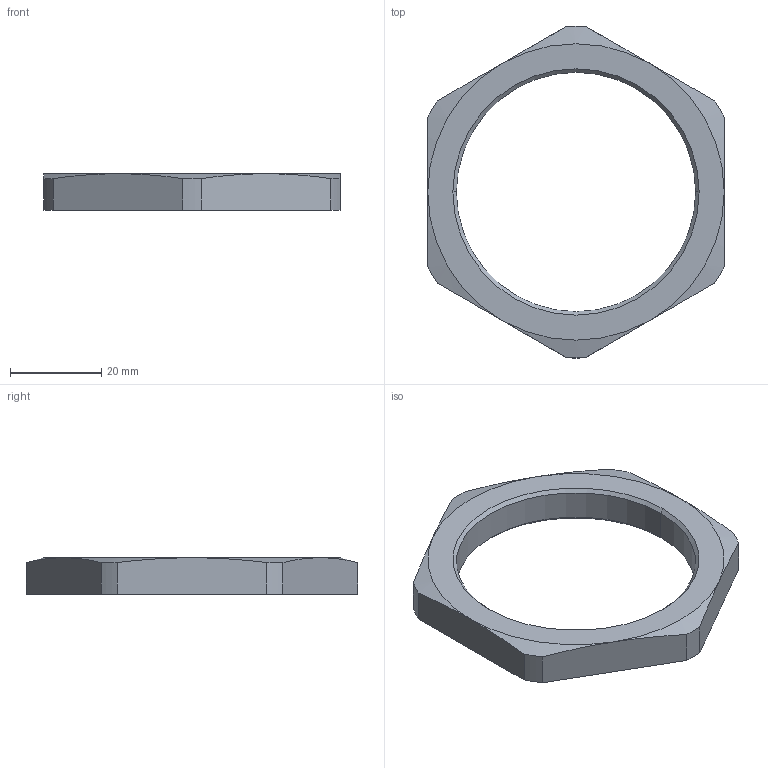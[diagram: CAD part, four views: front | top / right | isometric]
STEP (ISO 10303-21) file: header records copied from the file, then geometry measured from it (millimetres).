
FILE_DESCRIPTION (( 'STEP AP203' ), '1' );
FILE_NAME ('242 PA.STEP', '2007-01-04T09:19:48', ( ' ' ), ( '' ), 'SwSTEP 2.0', 'SolidWorks 2005278', '' );
FILE_SCHEMA (( 'CONFIG_CONTROL_DESIGN' ));
Length unit declared in the file: millimetre
Products named in the file (1): 242 PA
Bounding box: 65 x 72.79 x 8 mm (x, y, z)
Volume: 11637.4 mm3; surface area: 5829.9 mm2
Topology: 1 solids, 1 shells, 63 faces, 164 edges, 106 vertices
Faces by surface type: plane 45, cone 10, cylinder 8
Entity records: 2025 total; most frequent: CARTESIAN_POINT 398, ORIENTED_EDGE 328, DIRECTION 306, EDGE_CURVE 164, VECTOR 126, LINE 126, VERTEX_POINT 106, AXIS2_PLACEMENT_3D 90
